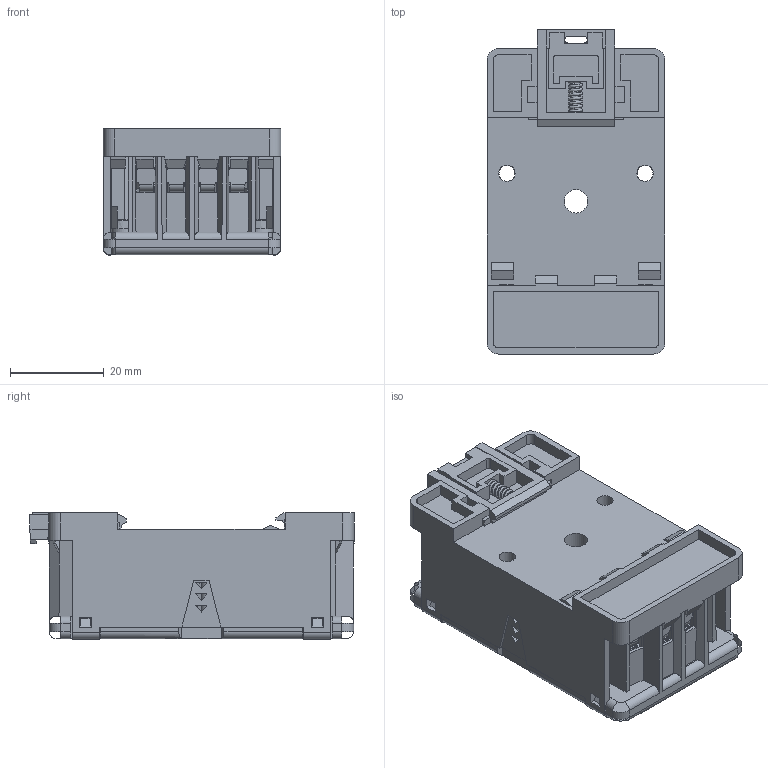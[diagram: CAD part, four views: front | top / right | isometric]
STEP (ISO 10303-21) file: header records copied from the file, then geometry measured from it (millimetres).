
FILE_DESCRIPTION((''),'2; 1');
FILE_NAME('','2026-03-27T11:08:56',(''),(''),'CST STEP Exporter V1.0','Unknown','');
FILE_SCHEMA(('CONFIG_CONTROL_DESIGN'));
Length unit declared in the file: metre
Assembly tree (88 placements, depth 2):
  (unnamed)
    (unnamed)
    (unnamed)
    (unnamed)
    (unnamed)
    (unnamed)
    (unnamed)
    (unnamed)
    (unnamed)
    (unnamed)
    (unnamed)
    (unnamed)
    (unnamed)
    (unnamed)
    (unnamed)
    (unnamed)
    (unnamed)
    (unnamed)
    (unnamed)
    (unnamed)
    (unnamed)
    (unnamed)
    (unnamed)
    (unnamed)
    (unnamed)
    (unnamed)
    (unnamed)
    (unnamed)
    (unnamed)
    (unnamed)
    (unnamed)
    (unnamed)
    (unnamed)
    (unnamed)
    (unnamed)
    (unnamed)
    (unnamed)
    (unnamed)
    (unnamed)
    (unnamed)
    (unnamed)
    (unnamed)
    (unnamed)
    (unnamed)
    (unnamed)
    (unnamed)
    (unnamed)
    (unnamed)
    (unnamed)
    (unnamed)
    (unnamed)
    (unnamed)
    (unnamed)
    (unnamed)
    (unnamed)
    (unnamed)
    (unnamed)
    (unnamed)
    (unnamed)
    (unnamed)
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Bounding box: 38 x 69.2 x 27 mm (x, y, z)
Surface area: 43000.8 mm2 (no closed solid volume)
Topology: 0 solids, 88 shells, 659 faces, 2863 edges, 2245 vertices
Faces by surface type: plane 500, cylinder 120, torus 25, cone 13, bspline 1
Full cylindrical faces by diameter (mm): 2 x1, 3 x11, 3.4 x2, 3.5 x2, 4.4 x11, 5 x1, 5.4 x11
Entity records: 35976 total; most frequent: CARTESIAN_POINT 6819, DIRECTION 4642, ORIENTED_EDGE 3933, EDGE_CURVE 2770, VERTEX_POINT 2209, VECTOR 2058, LINE 2058, AXIS2_PLACEMENT_3D 1292
